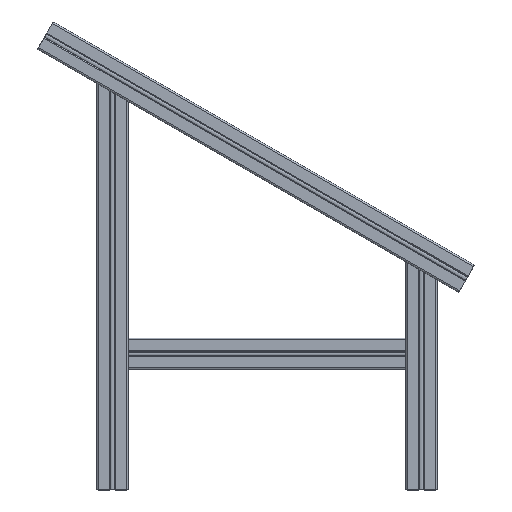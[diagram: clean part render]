
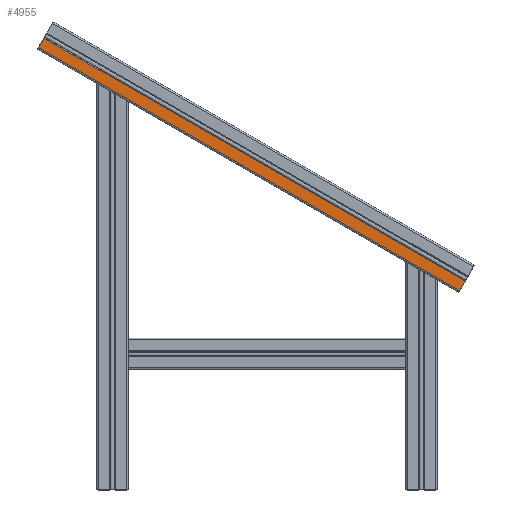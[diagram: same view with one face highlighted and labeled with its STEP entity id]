
A CAD part, top view. The second image highlights one B-rep face of the part: STEP entity #4955.
In plain terms, the highlighted planar face has unit normal (0, 0, 1).
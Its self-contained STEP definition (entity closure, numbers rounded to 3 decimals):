
#1289 = VERTEX_POINT ( 'NONE', #18011 ) ;
#1392 = VERTEX_POINT ( 'NONE', #16315 ) ;
#1652 = ORIENTED_EDGE ( 'NONE', *, *, #10832, .T. ) ;
#2050 = CARTESIAN_POINT ( 'NONE',  ( 54.8, 286.679, 67.5 ) ) ;
#2203 = EDGE_CURVE ( 'NONE', #1289, #1392, #16164, .T. ) ;
#2534 = LINE ( 'NONE', #4056, #5685 ) ;
#3635 = EDGE_LOOP ( 'NONE', ( #1652, #14009, #5159, #18689 ) ) ;
#4056 = CARTESIAN_POINT ( 'NONE',  ( 62.725, 300.406, 67.5 ) ) ;
#4879 = VERTEX_POINT ( 'NONE', #9090 ) ;
#4955 = ADVANCED_FACE ( 'NONE', ( #10610 ), #15094, .F. ) ;
#5159 = ORIENTED_EDGE ( 'NONE', *, *, #2203, .F. ) ;
#5685 = VECTOR ( 'NONE', #8331, 1000. ) ;
#5981 = EDGE_CURVE ( 'NONE', #1289, #14951, #2534, .T. ) ;
#6409 = DIRECTION ( 'NONE',  ( 0., 0., -1. ) ) ;
#6791 = DIRECTION ( 'NONE',  ( -0.866, 0.5, 0. ) ) ;
#8202 = LINE ( 'NONE', #12497, #8337 ) ;
#8331 = DIRECTION ( 'NONE',  ( -0.866, 0.5, 0. ) ) ;
#8337 = VECTOR ( 'NONE', #16872, 1000. ) ;
#9001 = VECTOR ( 'NONE', #6791, 1000. ) ;
#9090 = CARTESIAN_POINT ( 'NONE',  ( -551.418, 636.679, 67.5 ) ) ;
#9456 = LINE ( 'NONE', #12508, #9001 ) ;
#10610 = FACE_OUTER_BOUND ( 'NONE', #3635, .T. ) ;
#10832 = EDGE_CURVE ( 'NONE', #14951, #4879, #8202, .T. ) ;
#11977 = AXIS2_PLACEMENT_3D ( 'NONE', #2050, #6409, #16415 ) ;
#12497 = CARTESIAN_POINT ( 'NONE',  ( -551.418, 636.679, 67.5 ) ) ;
#12508 = CARTESIAN_POINT ( 'NONE',  ( 54.8, 286.679, 67.5 ) ) ;
#14009 = ORIENTED_EDGE ( 'NONE', *, *, #17859, .F. ) ;
#14846 = CARTESIAN_POINT ( 'NONE',  ( 54.8, 286.679, 67.5 ) ) ;
#14951 = VERTEX_POINT ( 'NONE', #16165 ) ;
#15094 = PLANE ( 'NONE',  #11977 ) ;
#15555 = VECTOR ( 'NONE', #16267, 1000. ) ;
#16164 = LINE ( 'NONE', #14846, #15555 ) ;
#16165 = CARTESIAN_POINT ( 'NONE',  ( -543.493, 650.406, 67.5 ) ) ;
#16267 = DIRECTION ( 'NONE',  ( -0.5, -0.866, 0. ) ) ;
#16315 = CARTESIAN_POINT ( 'NONE',  ( 54.8, 286.679, 67.5 ) ) ;
#16415 = DIRECTION ( 'NONE',  ( 0., 1., 0. ) ) ;
#16872 = DIRECTION ( 'NONE',  ( -0.5, -0.866, 0. ) ) ;
#17859 = EDGE_CURVE ( 'NONE', #1392, #4879, #9456, .T. ) ;
#18011 = CARTESIAN_POINT ( 'NONE',  ( 62.725, 300.406, 67.5 ) ) ;
#18689 = ORIENTED_EDGE ( 'NONE', *, *, #5981, .T. ) ;
